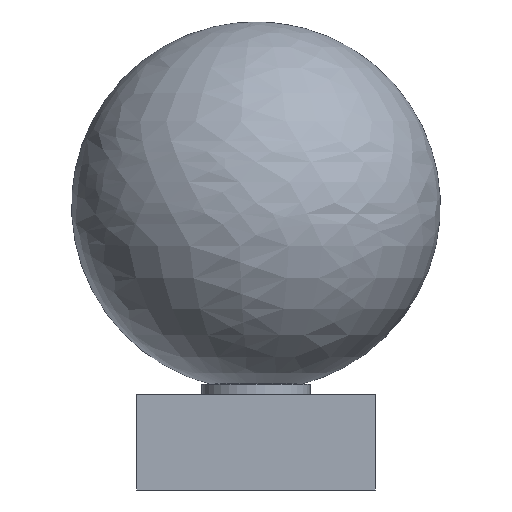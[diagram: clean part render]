
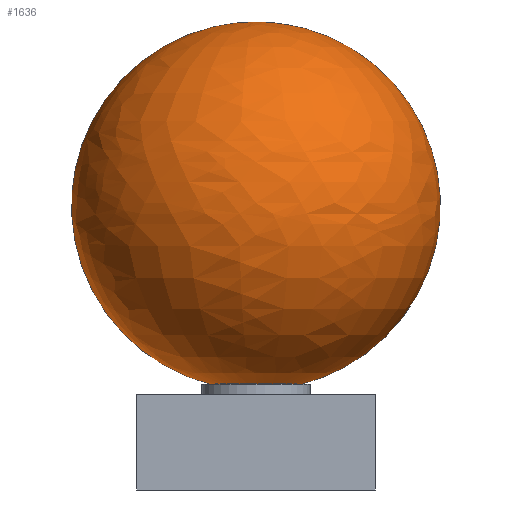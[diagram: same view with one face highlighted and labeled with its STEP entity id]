
A CAD part, front view. The second image highlights one B-rep face of the part: STEP entity #1636.
In plain terms, the highlighted free-form (B-spline) face has degree [2, 2] with [5, 5] control points.
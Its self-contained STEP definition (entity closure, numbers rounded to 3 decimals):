
#26=(
BOUNDED_CURVE()
B_SPLINE_CURVE(2,(#4095,#4096,#4097,#4098,#4099),.UNSPECIFIED.,.F.,.F.)
B_SPLINE_CURVE_WITH_KNOTS((3,2,3),(-1.317,0.128,
1.574),.UNSPECIFIED.)
CURVE()
GEOMETRIC_REPRESENTATION_ITEM()
RATIONAL_B_SPLINE_CURVE((1.,0.75,1.,0.75,1.))
REPRESENTATION_ITEM('')
);
#27=(
BOUNDED_CURVE()
B_SPLINE_CURVE(2,(#4102,#4103,#4104,#4105,#4106),.UNSPECIFIED.,.F.,.F.)
B_SPLINE_CURVE_WITH_KNOTS((3,2,3),(-1.574,-0.128,
1.317),.UNSPECIFIED.)
CURVE()
GEOMETRIC_REPRESENTATION_ITEM()
RATIONAL_B_SPLINE_CURVE((1.,0.75,1.,0.75,1.))
REPRESENTATION_ITEM('')
);
#32=(
BOUNDED_SURFACE()
B_SPLINE_SURFACE(2,2,((#4068,#4069,#4070,#4071,#4072),(#4073,#4074,#4075,
#4076,#4077),(#4078,#4079,#4080,#4081,#4082),(#4083,#4084,#4085,#4086,#4087),
(#4088,#4089,#4090,#4091,#4092)),.UNSPECIFIED.,.F.,.F.,.F.)
B_SPLINE_SURFACE_WITH_KNOTS((3,2,3),(3,2,3),(-1.317,0.128,
1.574),(-3.142,-1.571,0.),
 .UNSPECIFIED.)
GEOMETRIC_REPRESENTATION_ITEM()
RATIONAL_B_SPLINE_SURFACE(((1.,0.707,1.,0.707,1.),
(0.75,0.53,0.75,0.53,
0.75),(1.,0.707,1.,0.707,1.),(0.75,
0.53,0.75,0.53,0.75),
(1.,0.707,1.,0.707,1.)))
REPRESENTATION_ITEM('')
SURFACE()
);
#144=CIRCLE('',#1814,14.694);
#306=FACE_OUTER_BOUND('',#418,.T.);
#418=EDGE_LOOP('',(#1454,#1455,#1456));
#790=VERTEX_POINT('',#4093);
#791=VERTEX_POINT('',#4094);
#792=VERTEX_POINT('',#4100);
#1012=EDGE_CURVE('',#790,#791,#26,.T.);
#1013=EDGE_CURVE('',#792,#790,#144,.T.);
#1014=EDGE_CURVE('',#791,#792,#27,.T.);
#1454=ORIENTED_EDGE('',*,*,#1012,.F.);
#1455=ORIENTED_EDGE('',*,*,#1013,.F.);
#1456=ORIENTED_EDGE('',*,*,#1014,.F.);
#1636=ADVANCED_FACE('',(#306),#32,.F.);
#1814=AXIS2_PLACEMENT_3D('',#4101,#2266,#2267);
#2266=DIRECTION('center_axis',(0.,0.,
-1.));
#2267=DIRECTION('ref_axis',(1.,0.,0.));
#4068=CARTESIAN_POINT('Ctrl Pts',(-14.694,0.,
33.429));
#4069=CARTESIAN_POINT('Ctrl Pts',(-14.694,-14.694,33.429));
#4070=CARTESIAN_POINT('Ctrl Pts',(0.,-14.694,
33.429));
#4071=CARTESIAN_POINT('Ctrl Pts',(14.694,-14.694,33.429));
#4072=CARTESIAN_POINT('Ctrl Pts',(14.694,0.,
33.429));
#4073=CARTESIAN_POINT('Ctrl Pts',(-64.069,0.,
46.229));
#4074=CARTESIAN_POINT('Ctrl Pts',(-64.069,-64.069,46.229));
#4075=CARTESIAN_POINT('Ctrl Pts',(0.,-64.069,
46.229));
#4076=CARTESIAN_POINT('Ctrl Pts',(64.069,-64.069,46.229));
#4077=CARTESIAN_POINT('Ctrl Pts',(64.069,0.,46.229));
#4078=CARTESIAN_POINT('Ctrl Pts',(-57.538,0.,
96.816));
#4079=CARTESIAN_POINT('Ctrl Pts',(-57.538,-57.538,96.816));
#4080=CARTESIAN_POINT('Ctrl Pts',(0.,-57.538,
96.816));
#4081=CARTESIAN_POINT('Ctrl Pts',(57.538,-57.538,96.816));
#4082=CARTESIAN_POINT('Ctrl Pts',(57.538,0.,
96.816));
#4083=CARTESIAN_POINT('Ctrl Pts',(-51.007,0.,
147.404));
#4084=CARTESIAN_POINT('Ctrl Pts',(-51.007,-51.007,147.404));
#4085=CARTESIAN_POINT('Ctrl Pts',(0.,-51.007,
147.404));
#4086=CARTESIAN_POINT('Ctrl Pts',(51.007,-51.007,147.404));
#4087=CARTESIAN_POINT('Ctrl Pts',(51.007,0.,
147.404));
#4088=CARTESIAN_POINT('Ctrl Pts',(0.,0.,
147.244));
#4089=CARTESIAN_POINT('Ctrl Pts',(0.,0.,
147.244));
#4090=CARTESIAN_POINT('Ctrl Pts',(0.,0.,
147.244));
#4091=CARTESIAN_POINT('Ctrl Pts',(0.,0.,
147.244));
#4092=CARTESIAN_POINT('Ctrl Pts',(0.,0.,
147.244));
#4093=CARTESIAN_POINT('',(-14.694,0.,33.429));
#4094=CARTESIAN_POINT('',(0.,0.,147.244));
#4095=CARTESIAN_POINT('Ctrl Pts',(-14.694,0.,
33.429));
#4096=CARTESIAN_POINT('Ctrl Pts',(-64.069,0.,
46.229));
#4097=CARTESIAN_POINT('Ctrl Pts',(-57.538,0.,
96.816));
#4098=CARTESIAN_POINT('Ctrl Pts',(-51.007,0.,
147.404));
#4099=CARTESIAN_POINT('Ctrl Pts',(0.,0.,
147.244));
#4100=CARTESIAN_POINT('',(14.694,0.,33.429));
#4101=CARTESIAN_POINT('Origin',(0.,0.,
33.429));
#4102=CARTESIAN_POINT('Ctrl Pts',(0.,0.,
147.244));
#4103=CARTESIAN_POINT('Ctrl Pts',(51.007,0.,
147.404));
#4104=CARTESIAN_POINT('Ctrl Pts',(57.538,0.,
96.816));
#4105=CARTESIAN_POINT('Ctrl Pts',(64.069,0.,46.229));
#4106=CARTESIAN_POINT('Ctrl Pts',(14.694,0.,
33.429));
